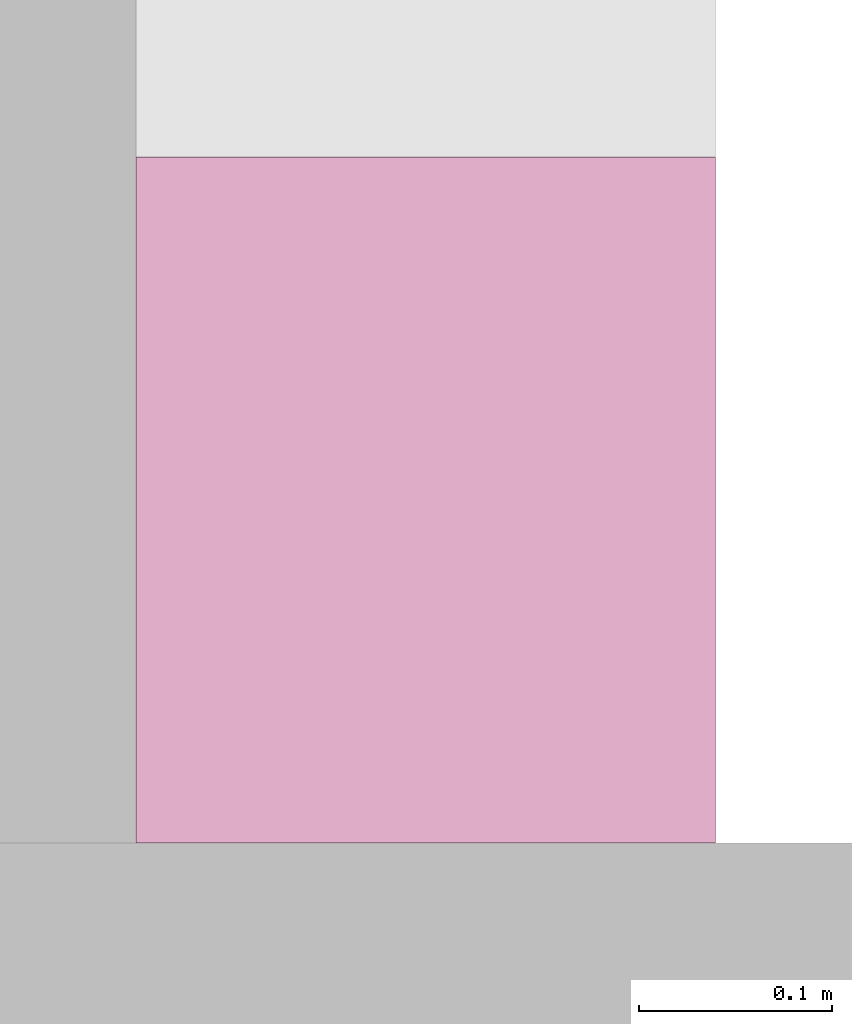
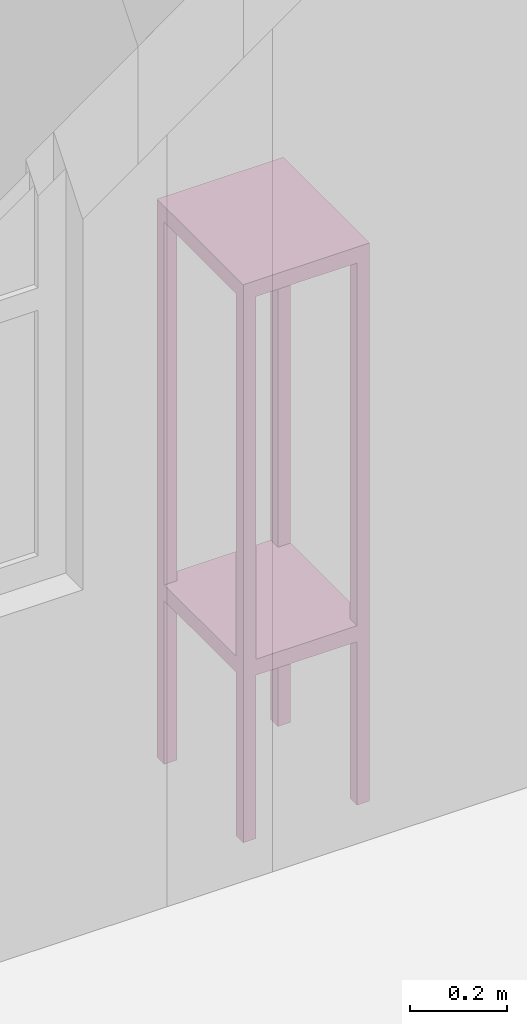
# One storey, part 47 of 48: 1 furnishing.
"""IFC2X3 building model written with IfcOpenShell, lengths in millimetres."""

from ifc_helpers import new_model, entity, si_unit, converted_unit, derived_unit, money_unit, direction, frame, origin_with_axes, place, context, subcontext, project, spatial, faceted_brep, type_object, element, save


model = new_model("IFC2X3")

# Units and contexts
model_context = context("Model", 3, precision=0.01, world=origin_with_axes(), true_north=direction((0.0, 1.0)))
body_context = subcontext(model_context, "Body", "Model", "MODEL_VIEW")
ifc_project = project(units=[si_unit("LENGTHUNIT", "METRE", prefix="MILLI"), si_unit("AREAUNIT", "SQUARE_METRE"), si_unit("VOLUMEUNIT", "CUBIC_METRE"), converted_unit("PLANEANGLEUNIT", "DEGREE", entity("IfcPlaneAngleMeasure", 0.0174532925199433), si_unit("PLANEANGLEUNIT", "RADIAN"), dimensions=[0, 0, 0, 0, 0, 0, 0]), money_unit("USD"), converted_unit("TIMEUNIT", "Year", entity("IfcTimeMeasure", 31557600.0), si_unit("TIMEUNIT", "SECOND"), dimensions=[0, 0, 1, 0, 0, 0, 0]), si_unit("MASSUNIT", "GRAM", prefix="KILO"), si_unit("THERMODYNAMICTEMPERATUREUNIT", "DEGREE_CELSIUS"), si_unit("LUMINOUSINTENSITYUNIT", "LUMEN"), si_unit("ENERGYUNIT", "JOULE", prefix="MEGA"), derived_unit("THERMALCONDUCTANCEUNIT", [(si_unit("POWERUNIT", "WATT"), 1), (si_unit("LENGTHUNIT", "METRE"), -1), (si_unit("THERMODYNAMICTEMPERATUREUNIT", "KELVIN"), -1)]), derived_unit("SPECIFICHEATCAPACITYUNIT", [(si_unit("ENERGYUNIT", "JOULE"), 1), (si_unit("MASSUNIT", "GRAM", prefix="KILO"), -1), (si_unit("THERMODYNAMICTEMPERATUREUNIT", "KELVIN"), -1)]), derived_unit("MASSDENSITYUNIT", [(si_unit("MASSUNIT", "GRAM", prefix="KILO"), 1), (si_unit("VOLUMEUNIT", "CUBIC_METRE"), -1)])], contexts=[model_context])

# Site, building, storey
site_placement = place(None, origin_with_axes())
site = spatial("IfcSite", under=ifc_project, at=site_placement, Name="Site", CompositionType="ELEMENT")
building_placement = place(site_placement, origin_with_axes())
building = spatial("IfcBuilding", under=site, at=building_placement, Name="Building", CompositionType="ELEMENT")
storey_placement = place(building_placement, frame((0.0, 0.0, 3300.0), z_axis=(0.0, 0.0, 1.0), x_axis=(1.0, 0.0, 0.0)))
storey = spatial("IfcBuildingStorey", under=building, at=storey_placement, Name="1 ETG", CompositionType="ELEMENT", Elevation=3300.0)

# Furnishing
furniture_type = type_object("IfcFurnitureType", Name="Bokhylle 02", AssemblyPlace="NOTDEFINED")
furnishing_placement = place(storey_placement, frame((34150.0168990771, 21919.93978794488, 0.0), z_axis=(0.0, 0.0, 1.0), x_axis=(0.0, -1.0, 0.0)))
element("IfcFurnishingElement", 1, at=furnishing_placement, inside=storey, type_object=furniture_type, Name="FU - 001", context=body_context, shape_type="Brep", body=[
    faceted_brep([(-30.0, 0.0, 0.0), (-30.0, 30.0, 0.0), (0.0, 30.0, 0.0), (0.0, 0.0, 0.0), (-30.0, 0.0, 1380.0), (-30.0, 30.0, 1380.0), (0.0, 30.0, 1380.0), (0.0, 0.0, 1380.0)], [[[0, 1, 2, 3]], [[0, 4, 5, 1]], [[1, 5, 6, 2]], [[2, 6, 7, 3]], [[3, 7, 4, 0]], [[7, 6, 5, 4]]]),
    faceted_brep([(-354.9351824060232, 0.0, 0.0), (-354.9351824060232, 30.0, 0.0), (-324.9351824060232, 30.0, 0.0), (-324.9351824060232, 0.0, 0.0), (-354.9351824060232, 0.0, 1380.0), (-354.9351824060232, 30.0, 1380.0), (-324.9351824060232, 30.0, 1380.0), (-324.9351824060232, 0.0, 1380.0)], [[[0, 1, 2, 3]], [[0, 4, 5, 1]], [[1, 5, 6, 2]], [[2, 6, 7, 3]], [[3, 7, 4, 0]], [[7, 6, 5, 4]]]),
    faceted_brep([(-30.0, 270.000704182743, 0.0), (-30.0, 300.000704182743, 0.0), (0.0, 300.000704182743, 0.0), (0.0, 270.000704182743, 0.0), (-30.0, 270.000704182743, 1380.0), (-30.0, 300.000704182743, 1380.0), (0.0, 300.000704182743, 1380.0), (0.0, 270.000704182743, 1380.0)], [[[0, 1, 2, 3]], [[0, 4, 5, 1]], [[1, 5, 6, 2]], [[2, 6, 7, 3]], [[3, 7, 4, 0]], [[7, 6, 5, 4]]]),
    faceted_brep([(-354.9351824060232, 270.000704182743, 0.0), (-354.9351824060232, 300.000704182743, 0.0), (-324.9351824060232, 300.000704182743, 0.0), (-324.9351824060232, 270.000704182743, 0.0), (-354.9351824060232, 270.000704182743, 1380.0), (-354.9351824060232, 300.000704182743, 1380.0), (-324.9351824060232, 300.000704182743, 1380.0), (-324.9351824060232, 270.000704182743, 1380.0)], [[[0, 1, 2, 3]], [[0, 4, 5, 1]], [[1, 5, 6, 2]], [[2, 6, 7, 3]], [[3, 7, 4, 0]], [[7, 6, 5, 4]]]),
    faceted_brep([(-30.0, 30.0, 410.0), (-30.0, 270.000704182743, 410.0), (0.0, 270.000704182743, 410.0), (0.0, 30.0, 410.0), (-30.0, 30.0, 430.0), (-30.0, 270.000704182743, 430.0), (0.0, 270.000704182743, 430.0), (0.0, 30.0, 430.0)], [[[0, 1, 2, 3]], [[0, 4, 5, 1]], [[1, 5, 6, 2]], [[2, 6, 7, 3]], [[3, 7, 4, 0]], [[7, 6, 5, 4]]]),
    faceted_brep([(-354.9351824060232, 30.0, 410.0), (-354.9351824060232, 270.000704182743, 410.0), (-324.9351824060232, 270.000704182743, 410.0), (-324.9351824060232, 30.0, 410.0), (-354.9351824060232, 30.0, 430.0), (-354.9351824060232, 270.000704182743, 430.0), (-324.9351824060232, 270.000704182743, 430.0), (-324.9351824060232, 30.0, 430.0)], [[[0, 1, 2, 3]], [[0, 4, 5, 1]], [[1, 5, 6, 2]], [[2, 6, 7, 3]], [[3, 7, 4, 0]], [[7, 6, 5, 4]]]),
    faceted_brep([(-324.9351824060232, 0.0, 410.0), (-324.9351824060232, 30.0, 410.0), (-30.0, 30.0, 410.0), (-30.0, 0.0, 410.0), (-324.9351824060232, 0.0, 430.0), (-324.9351824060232, 30.0, 430.0), (-30.0, 30.0, 430.0), (-30.0, 0.0, 430.0)], [[[0, 1, 2, 3]], [[0, 4, 5, 1]], [[1, 5, 6, 2]], [[2, 6, 7, 3]], [[3, 7, 4, 0]], [[7, 6, 5, 4]]]),
    faceted_brep([(-324.9351824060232, 270.000704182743, 410.0), (-324.9351824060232, 300.000704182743, 410.0), (-30.0, 300.000704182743, 410.0), (-30.0, 270.000704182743, 410.0), (-324.9351824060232, 270.000704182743, 430.0), (-324.9351824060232, 300.000704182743, 430.0), (-30.0, 300.000704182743, 430.0), (-30.0, 270.000704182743, 430.0)], [[[0, 1, 2, 3]], [[0, 4, 5, 1]], [[1, 5, 6, 2]], [[2, 6, 7, 3]], [[3, 7, 4, 0]], [[7, 6, 5, 4]]]),
    faceted_brep([(-30.0, 30.0, 1360.0), (-30.0, 270.000704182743, 1360.0), (0.0, 270.000704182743, 1360.0), (0.0, 30.0, 1360.0), (-30.0, 30.0, 1380.0), (-30.0, 270.000704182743, 1380.0), (0.0, 270.000704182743, 1380.0), (0.0, 30.0, 1380.0)], [[[0, 1, 2, 3]], [[0, 4, 5, 1]], [[1, 5, 6, 2]], [[2, 6, 7, 3]], [[3, 7, 4, 0]], [[7, 6, 5, 4]]]),
    faceted_brep([(-354.9351824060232, 30.0, 1360.0), (-354.9351824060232, 270.000704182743, 1360.0), (-324.9351824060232, 270.000704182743, 1360.0), (-324.9351824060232, 30.0, 1360.0), (-354.9351824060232, 30.0, 1380.0), (-354.9351824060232, 270.000704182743, 1380.0), (-324.9351824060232, 270.000704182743, 1380.0), (-324.9351824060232, 30.0, 1380.0)], [[[0, 1, 2, 3]], [[0, 4, 5, 1]], [[1, 5, 6, 2]], [[2, 6, 7, 3]], [[3, 7, 4, 0]], [[7, 6, 5, 4]]]),
    faceted_brep([(-324.9351824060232, 0.0, 1360.0), (-324.9351824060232, 30.0, 1360.0), (-30.0, 30.0, 1360.0), (-30.0, 0.0, 1360.0), (-324.9351824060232, 0.0, 1380.0), (-324.9351824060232, 30.0, 1380.0), (-30.0, 30.0, 1380.0), (-30.0, 0.0, 1380.0)], [[[0, 1, 2, 3]], [[0, 4, 5, 1]], [[1, 5, 6, 2]], [[2, 6, 7, 3]], [[3, 7, 4, 0]], [[7, 6, 5, 4]]]),
    faceted_brep([(-324.9351824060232, 270.000704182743, 1360.0), (-324.9351824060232, 300.000704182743, 1360.0), (-30.0, 300.000704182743, 1360.0), (-30.0, 270.000704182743, 1360.0), (-324.9351824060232, 270.000704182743, 1380.0), (-324.9351824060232, 300.000704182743, 1380.0), (-30.0, 300.000704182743, 1380.0), (-30.0, 270.000704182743, 1380.0)], [[[0, 1, 2, 3]], [[0, 4, 5, 1]], [[1, 5, 6, 2]], [[2, 6, 7, 3]], [[3, 7, 4, 0]], [[7, 6, 5, 4]]]),
    faceted_brep([(-354.9351824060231, 0.0, 1380.0), (-354.9351824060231, 300.000704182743, 1380.0), (0.0, 300.000704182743, 1380.0), (0.0, 0.0, 1380.0), (-354.9351824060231, 0.0, 1400.0), (-354.9351824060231, 300.000704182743, 1400.0), (0.0, 300.000704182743, 1400.0), (0.0, 0.0, 1400.0)], [[[0, 1, 2, 3]], [[0, 4, 5, 1]], [[1, 5, 6, 2]], [[2, 6, 7, 3]], [[3, 7, 4, 0]], [[7, 6, 5, 4]]]),
    faceted_brep([(0.0, 30.0, 430.0), (0.0, 30.0, 450.0), (-30.0, 30.0, 450.0), (-30.0, 30.0, 430.0), (0.0, 270.000704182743, 430.0), (0.0, 270.000704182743, 450.0), (-30.0, 270.000704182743, 450.0), (-30.0, 300.000704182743, 450.0), (-324.9351824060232, 300.000704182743, 450.0), (-324.9351824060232, 270.000704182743, 450.0), (-354.9351824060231, 270.000704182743, 450.0), (-354.9351824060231, 30.0, 450.0), (-324.9351824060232, 30.0, 450.0), (-324.9351824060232, 0.0, 450.0), (-30.0, 0.0, 450.0), (-30.0, 0.0, 430.0), (-324.9351824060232, 0.0, 430.0), (-324.9351824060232, 30.0, 430.0), (-354.9351824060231, 30.0, 430.0), (-354.9351824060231, 270.000704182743, 430.0), (-324.9351824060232, 270.000704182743, 430.0), (-324.9351824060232, 300.000704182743, 430.0), (-30.0, 300.000704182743, 430.0), (-30.0, 270.000704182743, 430.0)], [[[0, 1, 2, 3]], [[4, 5, 1, 0]], [[1, 5, 6, 7, 8, 9, 10, 11, 12, 13, 14, 2]], [[3, 2, 14, 15]], [[0, 3, 15, 16, 17, 18, 19, 20, 21, 22, 23, 4]], [[23, 6, 5, 4]], [[22, 7, 6, 23]], [[21, 8, 7, 22]], [[20, 9, 8, 21]], [[19, 10, 9, 20]], [[18, 11, 10, 19]], [[17, 12, 11, 18]], [[16, 13, 12, 17]], [[15, 14, 13, 16]]]),
])

save(model, "model.ifc")
